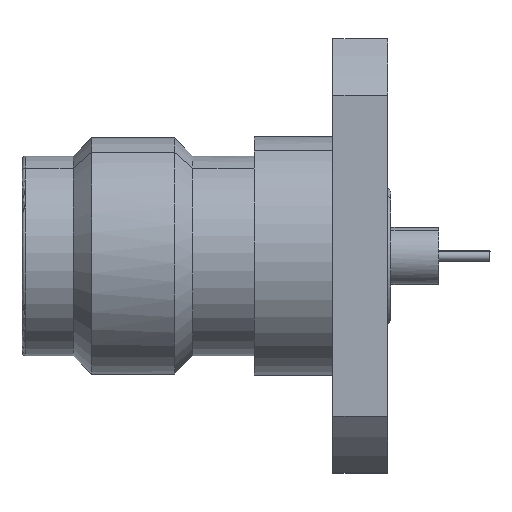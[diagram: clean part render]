
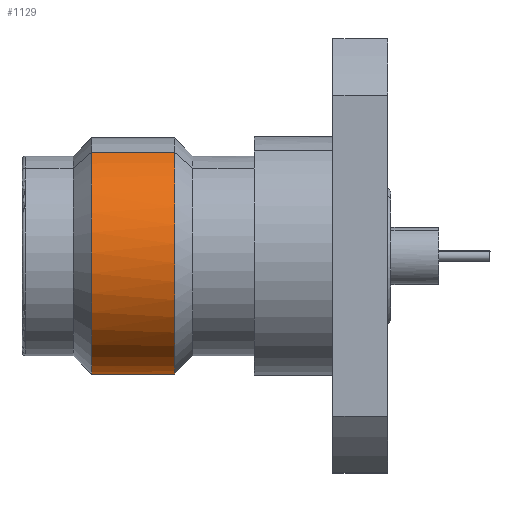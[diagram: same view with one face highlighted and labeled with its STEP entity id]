
A CAD part, top view. The second image highlights one B-rep face of the part: STEP entity #1129.
In plain terms, the highlighted cylindrical face has radius 3.46 mm (diameter 6.92 mm), a partial arc.
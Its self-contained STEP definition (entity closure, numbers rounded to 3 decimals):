
#1031=CARTESIAN_POINT('Vertex',(2.035,3.036,1.659)) ;
#1038=CARTESIAN_POINT('Vertex',(2.035,-3.036,-1.659)) ;
#1058=CARTESIAN_POINT('Axis2P3D Location',(2.035,0.,0.)) ;
#1075=CARTESIAN_POINT('Line Origine',(9.849,3.036,1.659)) ;
#1079=CARTESIAN_POINT('Vertex',(4.465,3.036,1.659)) ;
#1086=CARTESIAN_POINT('Vertex',(4.465,-3.036,-1.659)) ;
#1089=CARTESIAN_POINT('Line Origine',(9.849,-3.036,-1.659)) ;
#1101=CARTESIAN_POINT('Axis2P3D Location',(9.849,0.,0.)) ;
#1107=CARTESIAN_POINT('Control Point',(4.465,3.036,1.659)) ;
#1108=CARTESIAN_POINT('Control Point',(4.465,2.776,2.136)) ;
#1109=CARTESIAN_POINT('Control Point',(4.465,2.422,2.562)) ;
#1110=CARTESIAN_POINT('Control Point',(4.465,1.987,2.912)) ;
#1111=CARTESIAN_POINT('Control Point',(4.465,1.004,3.422)) ;
#1112=CARTESIAN_POINT('Control Point',(4.465,-0.099,3.524)) ;
#1113=CARTESIAN_POINT('Control Point',(4.465,-0.654,3.464)) ;
#1114=CARTESIAN_POINT('Control Point',(4.465,-1.71,3.13)) ;
#1115=CARTESIAN_POINT('Control Point',(4.465,-2.562,2.422)) ;
#1116=CARTESIAN_POINT('Control Point',(4.465,-2.912,1.987)) ;
#1117=CARTESIAN_POINT('Control Point',(4.465,-3.422,1.004)) ;
#1118=CARTESIAN_POINT('Control Point',(4.465,-3.524,-0.099)) ;
#1119=CARTESIAN_POINT('Control Point',(4.465,-3.464,-0.654)) ;
#1120=CARTESIAN_POINT('Control Point',(4.465,-3.297,-1.182)) ;
#1121=CARTESIAN_POINT('Control Point',(4.465,-3.036,-1.659)) ;
#1059=DIRECTION('Axis2P3D Direction',(1.,0.,0.)) ;
#1076=DIRECTION('Vector Direction',(1.,0.,0.)) ;
#1090=DIRECTION('Vector Direction',(1.,0.,0.)) ;
#1102=DIRECTION('Axis2P3D Direction',(1.,0.,0.)) ;
#1103=DIRECTION('Axis2P3D XDirection',(0.,0.878,0.479)) ;
#1060=AXIS2_PLACEMENT_3D('Circle Axis2P3D',#1058,#1059,$) ;
#1104=AXIS2_PLACEMENT_3D('Cylinder Axis2P3D',#1101,#1102,#1103) ;
#1124=ORIENTED_EDGE('',*,*,#1093,.T.) ;
#1125=ORIENTED_EDGE('',*,*,#1122,.F.) ;
#1126=ORIENTED_EDGE('',*,*,#1081,.F.) ;
#1127=ORIENTED_EDGE('',*,*,#1062,.T.) ;
#1077=VECTOR('Line Direction',#1076,1.) ;
#1091=VECTOR('Line Direction',#1090,1.) ;
#1129=ADVANCED_FACE('',(#1128),#1105,.T.) ;
#1106=B_SPLINE_CURVE_WITH_KNOTS('',5,(#1107,#1108,#1109,#1110,#1111,#1112,#1113,#1114,#1115,#1116,#1117,#1118,#1119,#1120,#1121),.UNSPECIFIED.,.F.,.U.,(6,3,3,3,6),(-5.435,-2.717,0.,2.717,5.435),.UNSPECIFIED.) ;
#1061=CIRCLE('generated circle',#1060,3.46) ;
#1105=CYLINDRICAL_SURFACE('generated cylinder',#1104,3.46) ;
#1062=EDGE_CURVE('',#1032,#1039,#1061,.T.) ;
#1081=EDGE_CURVE('',#1032,#1080,#1078,.T.) ;
#1093=EDGE_CURVE('',#1039,#1087,#1092,.T.) ;
#1122=EDGE_CURVE('',#1080,#1087,#1106,.T.) ;
#1123=EDGE_LOOP('',(#1124,#1125,#1126,#1127)) ;
#1128=FACE_OUTER_BOUND('',#1123,.T.) ;
#1078=LINE('Line',#1075,#1077) ;
#1092=LINE('Line',#1089,#1091) ;
#1032=VERTEX_POINT('',#1031) ;
#1039=VERTEX_POINT('',#1038) ;
#1080=VERTEX_POINT('',#1079) ;
#1087=VERTEX_POINT('',#1086) ;
